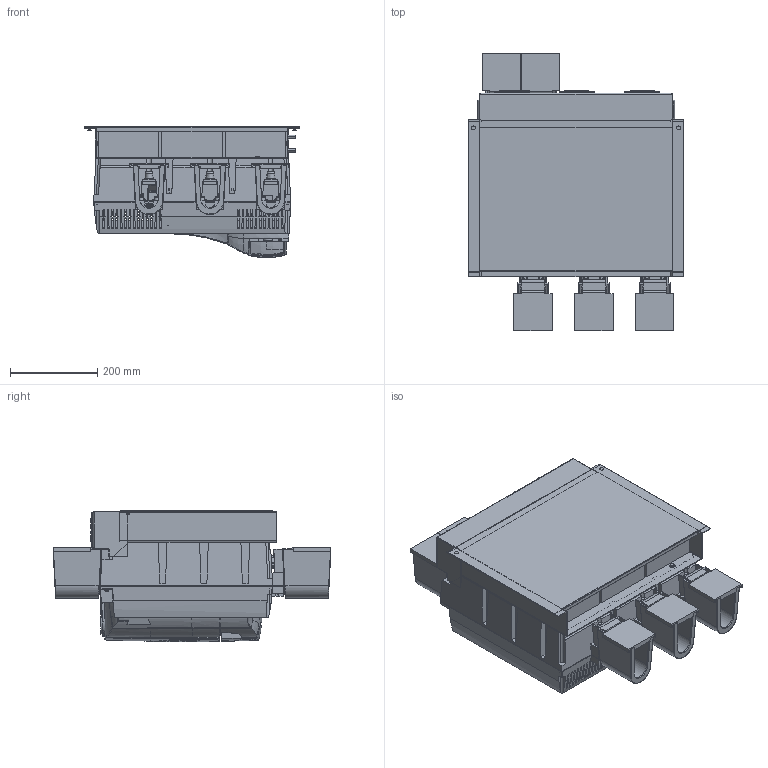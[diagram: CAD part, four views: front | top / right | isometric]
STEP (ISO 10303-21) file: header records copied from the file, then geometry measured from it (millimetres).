
FILE_DESCRIPTION((''),'2;1');
FILE_NAME('MENTOR_MP_2B','2010-03-22T',('wongch01'),(''),'PRO/ENGINEER BY PARAMETRIC TECHNOLOGY CORPORATION, 2007160','PRO/ENGINEER BY PARAMETRIC TECHNOLOGY CORPORATION, 2007160','');
FILE_SCHEMA(('CONFIG_CONTROL_DESIGN'));
Products named in the file (1): MENTOR_MP_2B
Bounding box: 495 x 638.96 x 302.09 mm (x, y, z)
Surface area: 3293243.4 mm2 (no closed solid volume)
Topology: 0 solids, 206 shells, 3362 faces, 12571 edges, 8963 vertices
Faces by surface type: plane 2003, cylinder 668, bspline 249, torus 233, cone 129, revolution 38, sphere 33, extrusion 9
Entity records: 180268 total; most frequent: CARTESIAN_POINT 56667, ORIENTED_EDGE 20477, DIRECTION 18576, EDGE_CURVE 12551, VERTEX_POINT 8963, VECTOR 8092, LINE 8083, AXIS2_PLACEMENT_3D 5223
